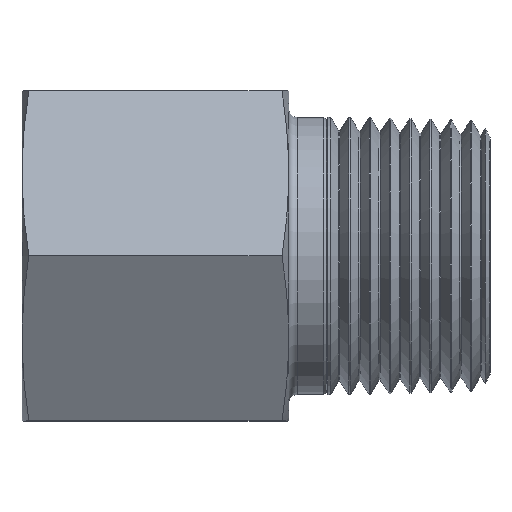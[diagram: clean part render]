
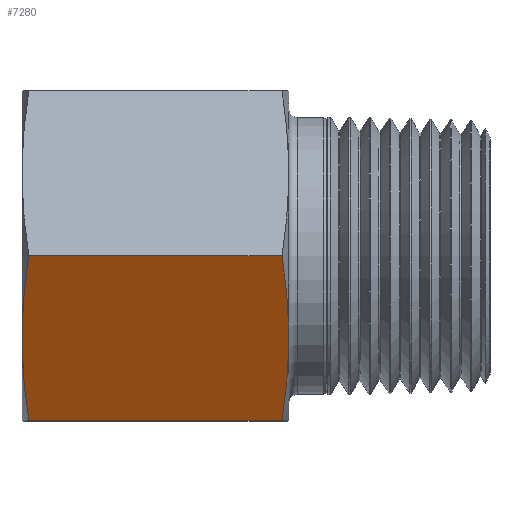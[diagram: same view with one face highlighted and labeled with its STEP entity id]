
A CAD part, top view. The second image highlights one B-rep face of the part: STEP entity #7280.
In plain terms, the highlighted planar face has unit normal (0, -0.5, 0.866).
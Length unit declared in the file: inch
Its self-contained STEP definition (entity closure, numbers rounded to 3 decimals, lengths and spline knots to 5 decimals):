
#283=LINE('',#9438,#647);
#300=LINE('',#10037,#664);
#647=VECTOR('',#8046,39.37008);
#664=VECTOR('',#8111,39.37008);
#1226=ORIENTED_EDGE('',*,*,#2657,.F.);
#1227=ORIENTED_EDGE('',*,*,#2658,.T.);
#1228=ORIENTED_EDGE('',*,*,#2659,.T.);
#1229=ORIENTED_EDGE('',*,*,#2660,.T.);
#1230=ORIENTED_EDGE('',*,*,#2661,.T.);
#1231=ORIENTED_EDGE('',*,*,#2487,.T.);
#1232=ORIENTED_EDGE('',*,*,#2662,.F.);
#1233=ORIENTED_EDGE('',*,*,#2663,.F.);
#1234=ORIENTED_EDGE('',*,*,#2664,.F.);
#1235=ORIENTED_EDGE('',*,*,#2665,.F.);
#2487=EDGE_CURVE('',#3204,#3205,#283,.T.);
#2657=EDGE_CURVE('',#3367,#3368,#300,.T.);
#2658=EDGE_CURVE('',#3367,#3369,#3836,.T.);
#2659=EDGE_CURVE('',#3369,#3345,#3837,.T.);
#2660=EDGE_CURVE('',#3345,#3370,#3838,.T.);
#2661=EDGE_CURVE('',#3370,#3204,#3839,.T.);
#2662=EDGE_CURVE('',#3371,#3205,#3840,.T.);
#2663=EDGE_CURVE('',#3372,#3371,#3841,.T.);
#2664=EDGE_CURVE('',#3373,#3372,#3842,.T.);
#2665=EDGE_CURVE('',#3368,#3373,#3843,.T.);
#3204=VERTEX_POINT('',#9439);
#3205=VERTEX_POINT('',#9440);
#3345=VERTEX_POINT('',#9908);
#3367=VERTEX_POINT('',#10038);
#3368=VERTEX_POINT('',#10039);
#3369=VERTEX_POINT('',#10044);
#3370=VERTEX_POINT('',#10053);
#3371=VERTEX_POINT('',#10062);
#3372=VERTEX_POINT('',#10067);
#3373=VERTEX_POINT('',#10072);
#3836=B_SPLINE_CURVE_WITH_KNOTS('',3,(#10040,#10041,#10042,#10043),
 .UNSPECIFIED.,.F.,.F.,(4,4),(0.,0.00815),
 .UNSPECIFIED.);
#3837=B_SPLINE_CURVE_WITH_KNOTS('',3,(#10045,#10046,#10047,#10048),
 .UNSPECIFIED.,.F.,.F.,(4,4),(0.00815,0.00917),
 .UNSPECIFIED.);
#3838=B_SPLINE_CURVE_WITH_KNOTS('',3,(#10049,#10050,#10051,#10052),
 .UNSPECIFIED.,.F.,.F.,(4,4),(0.00917,0.01018),
 .UNSPECIFIED.);
#3839=B_SPLINE_CURVE_WITH_KNOTS('',3,(#10054,#10055,#10056,#10057),
 .UNSPECIFIED.,.F.,.F.,(4,4),(0.01018,0.01833),
 .UNSPECIFIED.);
#3840=B_SPLINE_CURVE_WITH_KNOTS('',3,(#10058,#10059,#10060,#10061),
 .UNSPECIFIED.,.F.,.F.,(4,4),(0.01018,0.01833),
 .UNSPECIFIED.);
#3841=B_SPLINE_CURVE_WITH_KNOTS('',3,(#10063,#10064,#10065,#10066),
 .UNSPECIFIED.,.F.,.F.,(4,4),(0.00917,0.01018),
 .UNSPECIFIED.);
#3842=B_SPLINE_CURVE_WITH_KNOTS('',3,(#10068,#10069,#10070,#10071),
 .UNSPECIFIED.,.F.,.F.,(4,4),(0.00815,0.00917),
 .UNSPECIFIED.);
#3843=B_SPLINE_CURVE_WITH_KNOTS('',3,(#10073,#10074,#10075,#10076),
 .UNSPECIFIED.,.F.,.F.,(4,4),(0.,0.00815),
 .UNSPECIFIED.);
#3909=EDGE_LOOP('',(#1226,#1227,#1228,#1229,#1230,#1231,#1232,#1233,#1234,
#1235));
#4346=FACE_BOUND('',#3909,.T.);
#4756=PLANE('',#7631);
#7280=ADVANCED_FACE('',(#4346),#4756,.F.);
#7631=AXIS2_PLACEMENT_3D('',#10036,#8109,#8110);
#8046=DIRECTION('',(1.,0.,0.));
#8109=DIRECTION('',(0.,0.5,-0.866));
#8110=DIRECTION('',(0.,-0.866,-0.5));
#8111=DIRECTION('',(1.,0.,0.));
#9438=CARTESIAN_POINT('',(-0.535,-0.625,0.36084));
#9439=CARTESIAN_POINT('',(0.02591,-0.625,0.36084));
#9440=CARTESIAN_POINT('',(0.98509,-0.625,0.36084));
#9908=CARTESIAN_POINT('',(0.,-0.3125,0.54127));
#10036=CARTESIAN_POINT('',(-0.535,-0.625,0.36084));
#10037=CARTESIAN_POINT('',(-0.535,0.,0.72169));
#10038=CARTESIAN_POINT('',(0.02591,0.,0.72169));
#10039=CARTESIAN_POINT('',(0.98509,0.,0.72169));
#10040=CARTESIAN_POINT('',(0.02591,0.,0.72169));
#10041=CARTESIAN_POINT('',(0.01157,-0.09265,0.6682));
#10042=CARTESIAN_POINT('',(0.00217,-0.1853,0.6147));
#10043=CARTESIAN_POINT('',(0.00034,-0.27795,0.56121));
#10044=CARTESIAN_POINT('',(0.00034,-0.27795,0.56121));
#10045=CARTESIAN_POINT('',(0.00034,-0.27795,0.56121));
#10046=CARTESIAN_POINT('',(0.00011,-0.28947,0.55456));
#10047=CARTESIAN_POINT('',(0.,-0.30098,0.54791));
#10048=CARTESIAN_POINT('',(0.,-0.3125,0.54127));
#10049=CARTESIAN_POINT('',(0.,-0.3125,0.54127));
#10050=CARTESIAN_POINT('',(0.,-0.32402,0.53462));
#10051=CARTESIAN_POINT('',(0.00011,-0.33553,0.52797));
#10052=CARTESIAN_POINT('',(0.00034,-0.34705,0.52132));
#10053=CARTESIAN_POINT('',(0.00034,-0.34705,0.52132));
#10054=CARTESIAN_POINT('',(0.00034,-0.34705,0.52132));
#10055=CARTESIAN_POINT('',(0.00217,-0.4397,0.46783));
#10056=CARTESIAN_POINT('',(0.01157,-0.53235,0.41434));
#10057=CARTESIAN_POINT('',(0.02591,-0.625,0.36084));
#10058=CARTESIAN_POINT('',(1.01066,-0.34705,0.52132));
#10059=CARTESIAN_POINT('',(1.00883,-0.4397,0.46783));
#10060=CARTESIAN_POINT('',(0.99943,-0.53235,0.41434));
#10061=CARTESIAN_POINT('',(0.98509,-0.625,0.36084));
#10062=CARTESIAN_POINT('',(1.01066,-0.34705,0.52132));
#10063=CARTESIAN_POINT('',(1.011,-0.3125,0.54127));
#10064=CARTESIAN_POINT('',(1.011,-0.32402,0.53462));
#10065=CARTESIAN_POINT('',(1.01089,-0.33553,0.52797));
#10066=CARTESIAN_POINT('',(1.01066,-0.34705,0.52132));
#10067=CARTESIAN_POINT('',(1.011,-0.3125,0.54127));
#10068=CARTESIAN_POINT('',(1.01066,-0.27795,0.56121));
#10069=CARTESIAN_POINT('',(1.01089,-0.28947,0.55456));
#10070=CARTESIAN_POINT('',(1.011,-0.30098,0.54791));
#10071=CARTESIAN_POINT('',(1.011,-0.3125,0.54127));
#10072=CARTESIAN_POINT('',(1.01066,-0.27795,0.56121));
#10073=CARTESIAN_POINT('',(0.98509,0.,0.72169));
#10074=CARTESIAN_POINT('',(0.99943,-0.09265,0.6682));
#10075=CARTESIAN_POINT('',(1.00883,-0.1853,0.6147));
#10076=CARTESIAN_POINT('',(1.01066,-0.27795,0.56121));
